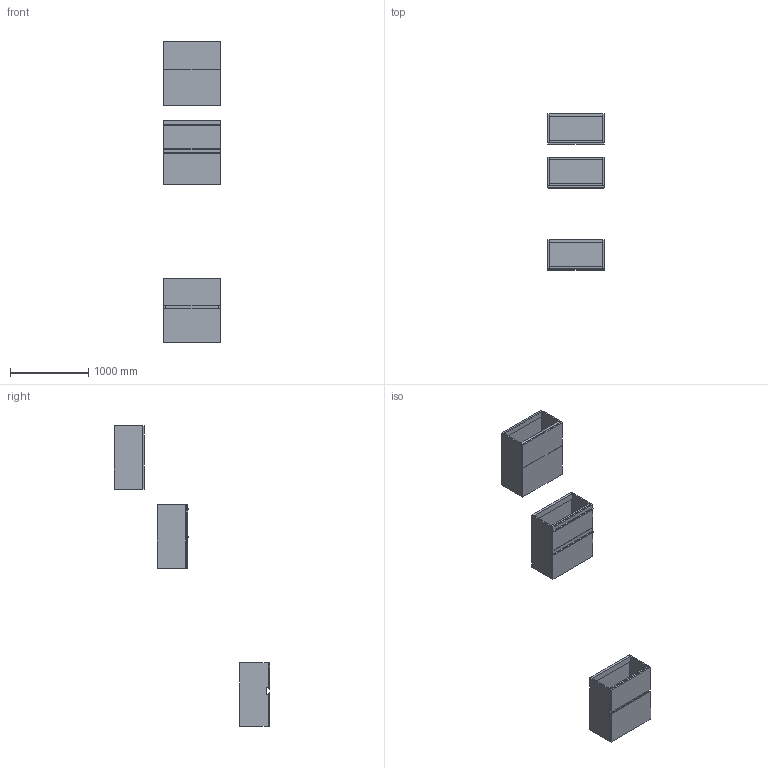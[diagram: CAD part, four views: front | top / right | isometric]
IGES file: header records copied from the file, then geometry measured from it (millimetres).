
Start section: Data from Parasolid IGES Translator 19.0.9, Copyright(c) 2006 Siemens PL M Software. All Rights Reserved.
Global section: file name: noorth-SI-H 81,2 D 38,8 W 72_8668.igs; native system: By Siemens PLM Incorporated; preprocessor: XPlus GENERIC/IGES 19.0.9; author: Noname; organization: Noname; date: 20200601.122738; units: metre
Bounding box: 720 x 1986 x 3842 mm (x, y, z)
Volume: 83996459.8 mm3; surface area: 13230192.6 mm2
Topology: 27 solids, 27 shells, 266 faces, 580 edges, 348 vertices
Faces by surface type: plane 182, extrusion 36, bspline 32, cylinder 16
